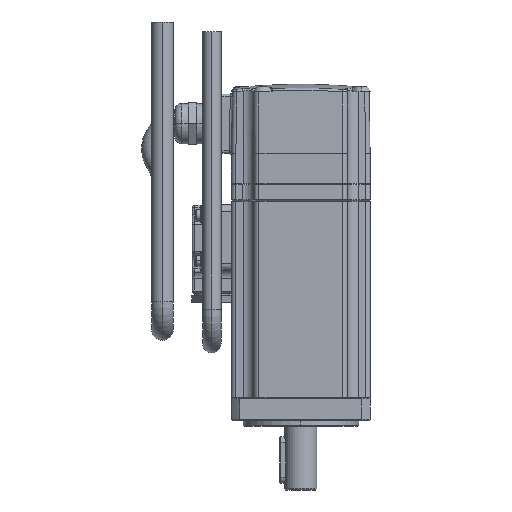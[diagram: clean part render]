
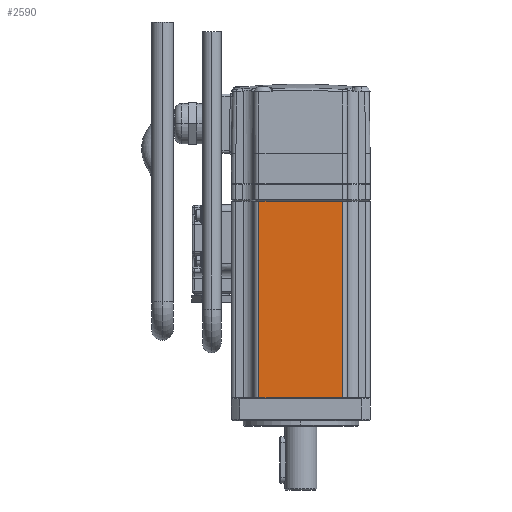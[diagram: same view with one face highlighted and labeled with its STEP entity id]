
A CAD part, front view. The second image highlights one B-rep face of the part: STEP entity #2590.
In plain terms, the highlighted planar face has unit normal (0, -1, 0).
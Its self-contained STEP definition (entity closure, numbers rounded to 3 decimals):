
#97=DIRECTION('',(1.,0.,0.));
#98=VECTOR('',#97,36.204);
#99=CARTESIAN_POINT('',(11.898,0.,0.));
#100=LINE('',#99,#98);
#416=DIRECTION('',(0.,0.,-1.));
#417=VECTOR('',#416,85.);
#418=CARTESIAN_POINT('',(48.102,0.,85.));
#419=LINE('',#418,#417);
#423=DIRECTION('',(0.,0.,-1.));
#424=VECTOR('',#423,85.);
#425=CARTESIAN_POINT('',(11.898,0.,85.));
#426=LINE('',#425,#424);
#680=DIRECTION('',(1.,0.,0.));
#681=VECTOR('',#680,36.204);
#682=CARTESIAN_POINT('',(11.898,0.,85.));
#683=LINE('',#682,#681);
#2039=CARTESIAN_POINT('',(48.102,0.,0.));
#2041=VERTEX_POINT('',#2039);
#2042=CARTESIAN_POINT('',(48.102,0.,85.));
#2043=VERTEX_POINT('',#2042);
#2046=CARTESIAN_POINT('',(11.898,0.,0.));
#2048=VERTEX_POINT('',#2046);
#2052=CARTESIAN_POINT('',(11.898,0.,85.));
#2053=VERTEX_POINT('',#2052);
#2577=CARTESIAN_POINT('',(10.,0.,0.));
#2578=DIRECTION('',(0.,-1.,0.));
#2579=DIRECTION('',(1.,0.,0.));
#2580=AXIS2_PLACEMENT_3D('',#2577,#2578,#2579);
#2581=PLANE('',#2580);
#2582=ORIENTED_EDGE('',*,*,#2569,.T.);
#2583=ORIENTED_EDGE('',*,*,#2271,.F.);
#2585=ORIENTED_EDGE('',*,*,#2584,.F.);
#2587=ORIENTED_EDGE('',*,*,#2586,.T.);
#2588=EDGE_LOOP('',(#2582,#2583,#2585,#2587));
#2589=FACE_OUTER_BOUND('',#2588,.F.);
#2271=EDGE_CURVE('',#2048,#2041,#100,.T.);
#2569=EDGE_CURVE('',#2043,#2041,#419,.T.);
#2584=EDGE_CURVE('',#2053,#2048,#426,.T.);
#2586=EDGE_CURVE('',#2053,#2043,#683,.T.);
#2590=ADVANCED_FACE('',(#2589),#2581,.T.);
